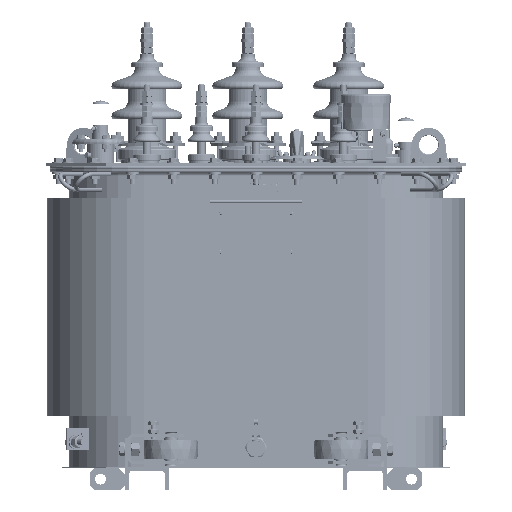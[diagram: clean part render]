
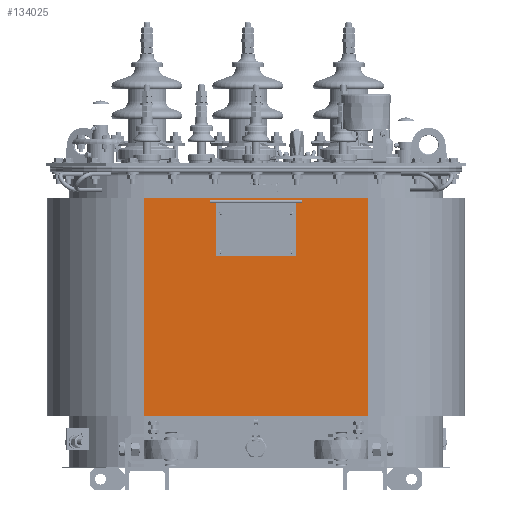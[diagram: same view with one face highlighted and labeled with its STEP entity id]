
A CAD part, front view. The second image highlights one B-rep face of the part: STEP entity #134025.
In plain terms, the highlighted planar face has unit normal (0, 1, 0).
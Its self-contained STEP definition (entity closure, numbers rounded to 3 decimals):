
#15671=LINE('',#287971,#22954);
#15682=LINE('',#287999,#22965);
#15683=LINE('',#288002,#22966);
#15684=LINE('',#288003,#22967);
#22954=VECTOR('',#178787,10.);
#22965=VECTOR('',#178812,10.);
#22966=VECTOR('',#178817,10.);
#22967=VECTOR('',#178818,10.);
#33727=FACE_OUTER_BOUND('',#42955,.T.);
#42955=EDGE_LOOP('',(#114070,#114071,#114072,#114073));
#60005=VERTEX_POINT('',#287969);
#60006=VERTEX_POINT('',#287970);
#60015=VERTEX_POINT('',#287996);
#60016=VERTEX_POINT('',#287998);
#78022=EDGE_CURVE('',#60005,#60006,#15671,.T.);
#78036=EDGE_CURVE('',#60015,#60016,#15682,.T.);
#78038=EDGE_CURVE('',#60015,#60006,#15683,.T.);
#78039=EDGE_CURVE('',#60005,#60016,#15684,.T.);
#114070=ORIENTED_EDGE('',*,*,#78036,.F.);
#114071=ORIENTED_EDGE('',*,*,#78038,.T.);
#114072=ORIENTED_EDGE('',*,*,#78022,.F.);
#114073=ORIENTED_EDGE('',*,*,#78039,.T.);
#117527=PLANE('',#146819);
#134025=ADVANCED_FACE('',(#33727),#117527,.F.);
#146819=AXIS2_PLACEMENT_3D('',#288001,#178815,#178816);
#178787=DIRECTION('',(0.,0.,1.));
#178812=DIRECTION('',(0.,0.,-1.));
#178815=DIRECTION('center_axis',(0.,-1.,0.));
#178816=DIRECTION('ref_axis',(-1.,0.,0.));
#178817=DIRECTION('',(1.,0.,0.));
#178818=DIRECTION('',(-1.,0.,0.));
#287969=CARTESIAN_POINT('',(205.,-179.,92.));
#287970=CARTESIAN_POINT('',(205.,-179.,492.));
#287971=CARTESIAN_POINT('',(205.,-179.,292.));
#287996=CARTESIAN_POINT('',(-205.,-179.,492.));
#287998=CARTESIAN_POINT('',(-205.,-179.,92.));
#287999=CARTESIAN_POINT('',(-205.,-179.,292.));
#288001=CARTESIAN_POINT('Origin',(205.,-179.,292.));
#288002=CARTESIAN_POINT('',(205.,-179.,492.));
#288003=CARTESIAN_POINT('',(205.,-179.,92.));
